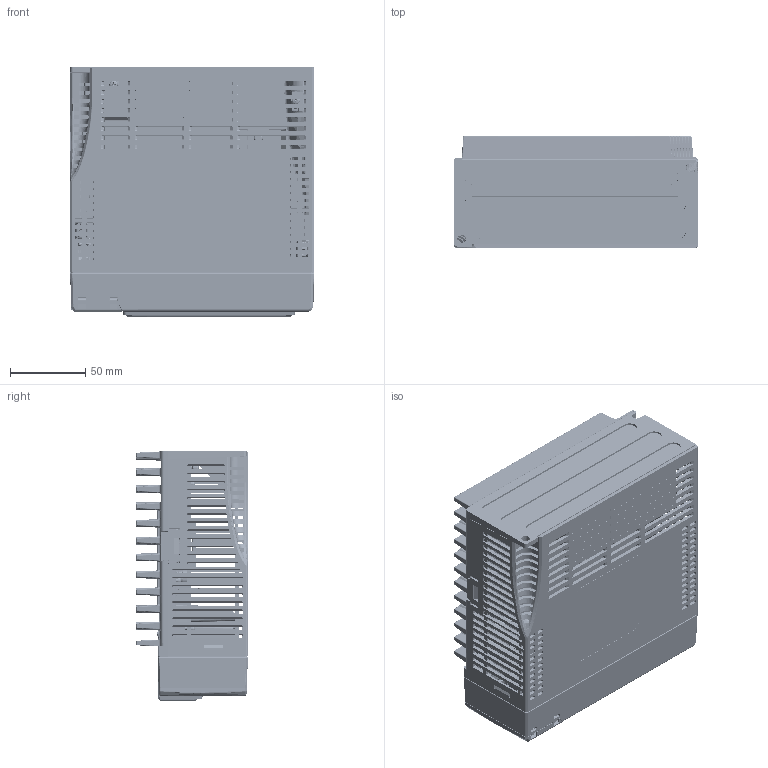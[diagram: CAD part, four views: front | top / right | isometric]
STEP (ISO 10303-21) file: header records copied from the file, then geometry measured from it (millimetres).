
FILE_DESCRIPTION((''),'2;1');
FILE_NAME('00_ASD-B3-0721','2019-08-12T',('JIMMY.CM.HUANG'),(''),'CREO PARAMETRIC BY PTC INC, 2018220','CREO PARAMETRIC BY PTC INC, 2018220','');
FILE_SCHEMA(('CONFIG_CONTROL_DESIGN'));
Products named in the file (21): HSK_B3_750W_V00_BEFORE; THERMAL-PAD-CIRCLE; BRAKE_RESISTOR_2; TB-12P_3076690446; 0_PWR_B3-750W; USB_DIP_CU04SCH15BD; RJ45_307257383M; D-SUB-44P_3075357287; IEEE1394_3076810243; 0_CONTROL-BD_B3-B; CASD_B3-750W_B3_BEFORE_OK; COVER-B3-1500W; DOOR_B3-1500W; COVER_DISPLAY_LENS_B3; MODEL-LABEL; LABEL_QR_CODE; M3-L6_3100310600; M3-L8_B3; M4_GND_B2_01; SCREW_SPRING_M3_L12_B3; 00_ASD-B3-0721
Assembly tree (29 placements, depth 3):
  00_ASD-B3-0721
    HSK_B3_750W_V00_BEFORE
    THERMAL-PAD-CIRCLE
    BRAKE_RESISTOR_2
    0_PWR_B3-750W
      TB-12P_3076690446
    0_CONTROL-BD_B3-B
      USB_DIP_CU04SCH15BD
      RJ45_307257383M
      D-SUB-44P_3075357287
      IEEE1394_3076810243
    CASD_B3-750W_B3_BEFORE_OK
    COVER-B3-1500W
    DOOR_B3-1500W
    COVER_DISPLAY_LENS_B3
    MODEL-LABEL
    LABEL_QR_CODE
    M3-L6_3100310600  x2
    M3-L8_B3  x5
    M4_GND_B2_01  x2
    SCREW_SPRING_M3_L12_B3  x4
Bounding box: 162.2 x 74.35 x 165.85 mm (x, y, z)
Volume: 427040.2 mm3; surface area: 312505.4 mm2
Topology: 27 solids, 27 shells, 12432 faces, 34276 edges, 21730 vertices
Faces by surface type: plane 7159, cylinder 3086, bspline 1080, cone 701, torus 149, extrusion 134, sphere 123
Entity records: 482994 total; most frequent: CARTESIAN_POINT 135880, ORIENTED_EDGE 65258, DIRECTION 55871, EDGE_CURVE 32629, VECTOR 22815, LINE 22681, VERTEX_POINT 20778, AXIS2_PLACEMENT_3D 16528
